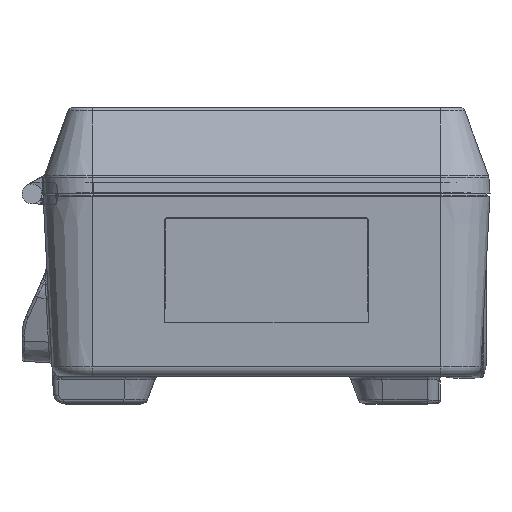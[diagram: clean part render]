
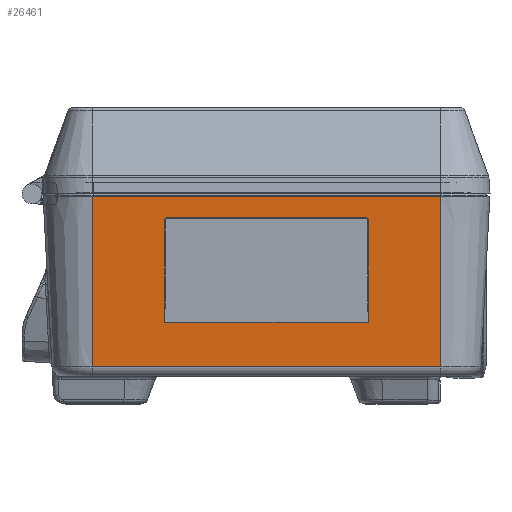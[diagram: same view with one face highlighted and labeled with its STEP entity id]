
A CAD part, left-side view. The second image highlights one B-rep face of the part: STEP entity #26461.
In plain terms, the highlighted planar face has unit normal (-0.999, 0, -0.052).
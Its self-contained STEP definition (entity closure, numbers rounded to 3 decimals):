
#2750=FACE_BOUND('',#40290,.T.);
#2751=FACE_BOUND('',#40291,.T.);
#26461=ADVANCED_FACE('',(#2750,#2751),#30666,.T.);
#30666=PLANE('',#122996);
#40290=EDGE_LOOP('',(#75596,#75597,#75598,#75599,#75600,#75601));
#40291=EDGE_LOOP('',(#75602,#75603,#75604,#75605));
#52179=LINE('',#168386,#58333);
#53738=LINE('',#188063,#59892);
#53739=LINE('',#188083,#59893);
#53740=LINE('',#188102,#59894);
#53741=LINE('',#188104,#59895);
#53742=LINE('',#188105,#59896);
#53743=LINE('',#188107,#59897);
#53744=LINE('',#188109,#59898);
#58333=VECTOR('',#136136,1.);
#59892=VECTOR('',#142767,1.);
#59893=VECTOR('',#142768,1.);
#59894=VECTOR('',#142769,1.);
#59895=VECTOR('',#142770,1.);
#59896=VECTOR('',#142771,1.);
#59897=VECTOR('',#142772,1.);
#59898=VECTOR('',#142773,1.);
#75596=ORIENTED_EDGE('',*,*,#107970,.T.);
#75597=ORIENTED_EDGE('',*,*,#107971,.T.);
#75598=ORIENTED_EDGE('',*,*,#107972,.T.);
#75599=ORIENTED_EDGE('',*,*,#107973,.T.);
#75600=ORIENTED_EDGE('',*,*,#107974,.T.);
#75601=ORIENTED_EDGE('',*,*,#107975,.F.);
#75602=ORIENTED_EDGE('',*,*,#107976,.F.);
#75603=ORIENTED_EDGE('',*,*,#104268,.T.);
#75604=ORIENTED_EDGE('',*,*,#107977,.T.);
#75605=ORIENTED_EDGE('',*,*,#107978,.T.);
#94302=VERTEX_POINT('',#168328);
#94322=VERTEX_POINT('',#168385);
#96727=VERTEX_POINT('',#188064);
#96728=VERTEX_POINT('',#188065);
#96729=VERTEX_POINT('',#188082);
#96730=VERTEX_POINT('',#188084);
#96731=VERTEX_POINT('',#188101);
#96732=VERTEX_POINT('',#188103);
#96733=VERTEX_POINT('',#188106);
#96734=VERTEX_POINT('',#188108);
#104268=EDGE_CURVE('',#94302,#94322,#52179,.T.);
#107970=EDGE_CURVE('',#96727,#96728,#53738,.T.);
#107971=EDGE_CURVE('',#96728,#96729,#116424,.T.);
#107972=EDGE_CURVE('',#96729,#96730,#53739,.T.);
#107973=EDGE_CURVE('',#96730,#96731,#116425,.T.);
#107974=EDGE_CURVE('',#96731,#96732,#53740,.T.);
#107975=EDGE_CURVE('',#96727,#96732,#53741,.T.);
#107976=EDGE_CURVE('',#94302,#96733,#53742,.T.);
#107977=EDGE_CURVE('',#94322,#96734,#53743,.T.);
#107978=EDGE_CURVE('',#96734,#96733,#53744,.T.);
#116424=B_SPLINE_CURVE_WITH_KNOTS('',3,(#188066,#188067,#188068,#188069,
#188070,#188071,#188072,#188073,#188074,#188075,#188076,#188077,#188078,
#188079,#188080,#188081),.UNSPECIFIED.,.F.,.F.,(4,3,3,3,3,4),(0.,0.123,
0.338,0.552,0.767,1.),.UNSPECIFIED.);
#116425=B_SPLINE_CURVE_WITH_KNOTS('',3,(#188085,#188086,#188087,#188088,
#188089,#188090,#188091,#188092,#188093,#188094,#188095,#188096,#188097,
#188098,#188099,#188100),.UNSPECIFIED.,.F.,.F.,(4,3,3,3,3,4),(0.,0.123,
0.337,0.553,0.768,1.),.UNSPECIFIED.);
#122996=AXIS2_PLACEMENT_3D('',#188110,#142774,#142775);
#136136=DIRECTION('',(0.,1.,0.));
#142767=DIRECTION('',(-0.052,0.,0.999));
#142768=DIRECTION('',(0.,-1.,0.));
#142769=DIRECTION('',(0.052,0.,-0.999));
#142770=DIRECTION('',(0.,-1.,0.));
#142771=DIRECTION('',(0.052,0.,-0.999));
#142772=DIRECTION('',(0.052,0.,-0.999));
#142773=DIRECTION('',(0.,-1.,0.));
#142774=DIRECTION('',(-0.999,0.,-0.052));
#142775=DIRECTION('',(0.052,0.,-0.999));
#168328=CARTESIAN_POINT('',(-194.948,-166.,-1.));
#168385=CARTESIAN_POINT('',(-194.948,-24.5,-1.));
#168386=CARTESIAN_POINT('',(-194.948,-24.5,-1.));
#188063=CARTESIAN_POINT('',(-192.311,-53.85,-51.3));
#188064=CARTESIAN_POINT('',(-192.271,-53.85,-52.07));
#188065=CARTESIAN_POINT('',(-194.422,-53.85,-11.02));
#188066=CARTESIAN_POINT('',(-194.422,-53.85,-11.02));
#188067=CARTESIAN_POINT('',(-194.427,-53.85,-10.929));
#188068=CARTESIAN_POINT('',(-194.432,-53.859,-10.839));
#188069=CARTESIAN_POINT('',(-194.437,-53.876,-10.75));
#188070=CARTESIAN_POINT('',(-194.445,-53.906,-10.597));
#188071=CARTESIAN_POINT('',(-194.453,-53.964,-10.446));
#188072=CARTESIAN_POINT('',(-194.46,-54.043,-10.311));
#188073=CARTESIAN_POINT('',(-194.467,-54.122,-10.176));
#188074=CARTESIAN_POINT('',(-194.473,-54.226,-10.053));
#188075=CARTESIAN_POINT('',(-194.478,-54.346,-9.952));
#188076=CARTESIAN_POINT('',(-194.484,-54.465,-9.851));
#188077=CARTESIAN_POINT('',(-194.488,-54.604,-9.769));
#188078=CARTESIAN_POINT('',(-194.491,-54.75,-9.713));
#188079=CARTESIAN_POINT('',(-194.494,-54.909,-9.653));
#188080=CARTESIAN_POINT('',(-194.496,-55.081,-9.621));
#188081=CARTESIAN_POINT('',(-194.496,-55.25,-9.621));
#188082=CARTESIAN_POINT('',(-194.496,-55.25,-9.621));
#188083=CARTESIAN_POINT('',(-194.496,-55.25,-9.621));
#188084=CARTESIAN_POINT('',(-194.496,-135.25,-9.621));
#188085=CARTESIAN_POINT('',(-194.496,-135.25,-9.621));
#188086=CARTESIAN_POINT('',(-194.496,-135.34,-9.621));
#188087=CARTESIAN_POINT('',(-194.495,-135.431,-9.63));
#188088=CARTESIAN_POINT('',(-194.494,-135.52,-9.647));
#188089=CARTESIAN_POINT('',(-194.493,-135.673,-9.677));
#188090=CARTESIAN_POINT('',(-194.49,-135.824,-9.734));
#188091=CARTESIAN_POINT('',(-194.486,-135.959,-9.814));
#188092=CARTESIAN_POINT('',(-194.482,-136.094,-9.893));
#188093=CARTESIAN_POINT('',(-194.476,-136.218,-9.997));
#188094=CARTESIAN_POINT('',(-194.47,-136.319,-10.116));
#188095=CARTESIAN_POINT('',(-194.464,-136.42,-10.236));
#188096=CARTESIAN_POINT('',(-194.456,-136.502,-10.375));
#188097=CARTESIAN_POINT('',(-194.449,-136.558,-10.521));
#188098=CARTESIAN_POINT('',(-194.44,-136.618,-10.679));
#188099=CARTESIAN_POINT('',(-194.431,-136.65,-10.851));
#188100=CARTESIAN_POINT('',(-194.422,-136.65,-11.02));
#188101=CARTESIAN_POINT('',(-194.422,-136.65,-11.02));
#188102=CARTESIAN_POINT('',(-194.424,-136.65,-10.999));
#188103=CARTESIAN_POINT('',(-192.271,-136.65,-52.07));
#188104=CARTESIAN_POINT('',(-192.271,-24.5,-52.07));
#188105=CARTESIAN_POINT('',(-195.,-166.,0.));
#188106=CARTESIAN_POINT('',(-191.32,-166.,-70.209));
#188107=CARTESIAN_POINT('',(-195.,-24.5,0.));
#188108=CARTESIAN_POINT('',(-191.32,-24.5,-70.209));
#188109=CARTESIAN_POINT('',(-191.32,-24.5,-70.209));
#188110=CARTESIAN_POINT('',(-195.,-24.5,0.));
